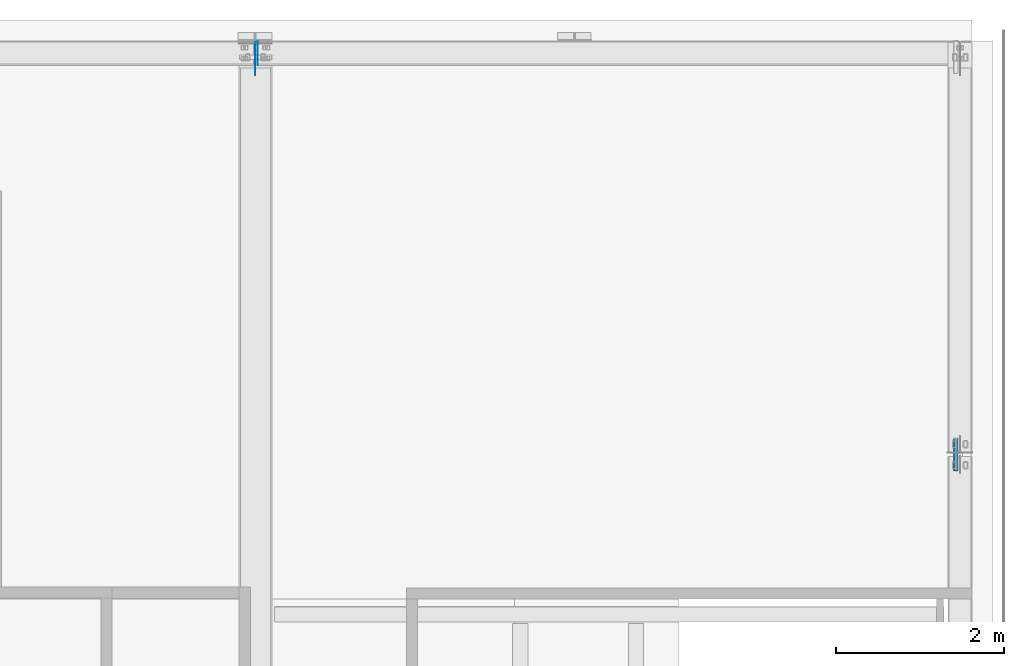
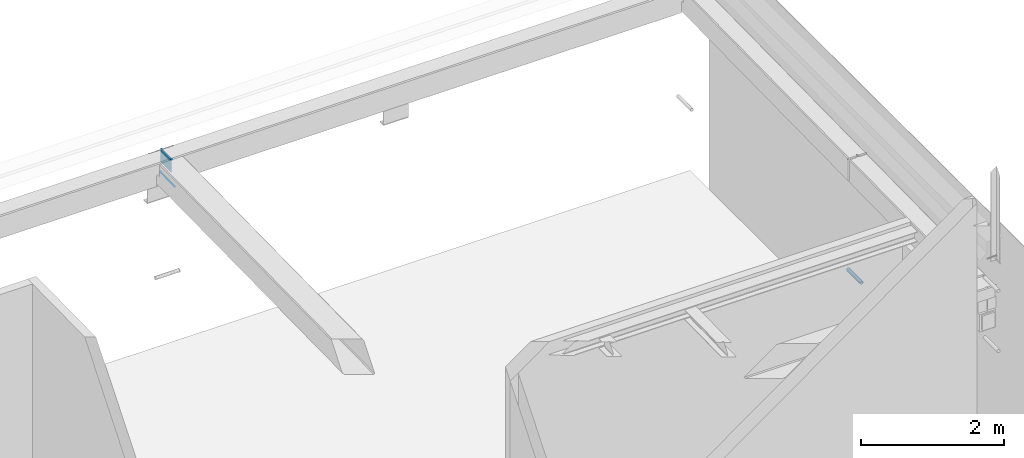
# One storey, part 50 of 186: 4 beams.
"""IFC4X3_ADD2 building model written with IfcOpenShell, lengths in millimetres."""

from ifc_helpers import new_model, si_unit, direction, frame, frame_2d, origin_with_axes, place, context, subcontext, project, spatial, rectangle, hollow_circle, extrude, material, element, save


model = new_model("IFC4X3_ADD2")

# Units and contexts
model_context = context("Model", 3, precision=1e-05, world=origin_with_axes(), true_north=direction((0.0, 1.0)))
body_context = subcontext(model_context, "Body", "Model", "MODEL_VIEW")
ifc_project = project(units=[si_unit("LENGTHUNIT", "METRE", prefix="MILLI"), si_unit("AREAUNIT", "SQUARE_METRE"), si_unit("VOLUMEUNIT", "CUBIC_METRE"), si_unit("PLANEANGLEUNIT", "RADIAN"), si_unit("TIMEUNIT", "SECOND"), si_unit("MASSUNIT", "GRAM")], contexts=[model_context])

# Site, building, storey
site_placement = place(None, origin_with_axes())
site = spatial("IfcSite", under=ifc_project, at=site_placement, Name="Site", CompositionType="ELEMENT")
building_placement = place(site_placement, origin_with_axes())
building = spatial("IfcBuilding", under=site, at=building_placement, Name="IFC Building Story")
storey_placement = place(building_placement, frame((0.0, 0.0, 4370.0), z_axis=(0.0, 0.0, 1.0), x_axis=(1.0, 0.0, 0.0)))
storey = spatial("IfcBuildingStorey", under=building, at=storey_placement, Name="ETAGE 10 (1)", Elevation=4370.0)

# Beams
ifc_material_1 = material(Name="STEEL/Accessory_invisible")
beam_1_placement = place(storey_placement, frame((39995.6887833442, 26405.0496948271, 3334.02909633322), z_axis=(1.0, 0.0, 0.0), x_axis=(0.0, 0.0, 1.0)))
element("IfcBeam", 1, at=beam_1_placement, inside=storey, material=ifc_material_1, Name="ZW3", ObjectType="1*1 11", context=body_context, shape_type="SweptSolid", body=[
    extrude(rectangle(XDim=0.9999999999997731, YDim=289.900000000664, at=frame_2d((0.0, 5.95523630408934e-12), x_axis=(1.0, 0.0))), origin_with_axes(), (0.0, 0.0, 1.0), 1.0),
])
ifc_material_2 = material(Name="STEEL/Accessory_invisible 261")
beam_2_placement = place(storey_placement, frame((39965.6890204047, 26381.690253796, 3250.855503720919), z_axis=(1.0, 0.0, 0.0), x_axis=(0.0, -0.0155295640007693, 0.9998794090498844)))
element("IfcBeam", 2, at=beam_2_placement, inside=storey, material=ifc_material_2, Name="BEK4", ObjectType="218*1", context=body_context, shape_type="SweptSolid", body=[
    extrude(rectangle(XDim=218.0, YDim=300.036181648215, at=frame_2d((0.0, 5.95523630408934e-12), x_axis=(1.0, 0.0))), origin_with_axes(), (0.0, 0.0, 1.0), 1.0),
])
beam_3_placement = place(storey_placement, frame((39965.6890204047, 26335.0190463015, 2964.522692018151), z_axis=(1.0, 0.0, 0.0), x_axis=(0.0, -0.0155295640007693, 0.9998794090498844)))
element("IfcBeam", 3, at=beam_3_placement, inside=storey, material=ifc_material_2, Name="BEK4", ObjectType="11*1", context=body_context, shape_type="SweptSolid", body=[
    extrude(rectangle(XDim=11.000000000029, YDim=390.260904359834, at=frame_2d((0.0, 5.95523630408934e-12), x_axis=(1.0, 0.0))), origin_with_axes(), (0.0, 0.0, 1.0), 1.0),
])
ifc_material_3 = material(Name="STEEL/Accessory_PVC")
beam_4_placement = place(storey_placement, frame((48311.1886362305, 21427.9996108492, 1255.0), z_axis=(0.0, 1.0, 0.0), x_axis=(1.0, 0.0, 0.0)))
element("IfcBeam", 4, at=beam_4_placement, inside=storey, material=ifc_material_3, Name="PS13", ObjectType="O56*3", context=body_context, shape_type="SweptSolid", body=[
    extrude(hollow_circle(Radius=28.0, WallThickness=3.0, at=frame_2d((0.0, 5.95523630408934e-12), x_axis=(1.0, 0.0))), origin_with_axes(), (0.0, 0.0, 1.0), 384.0),
])

save(model, "model.ifc")
